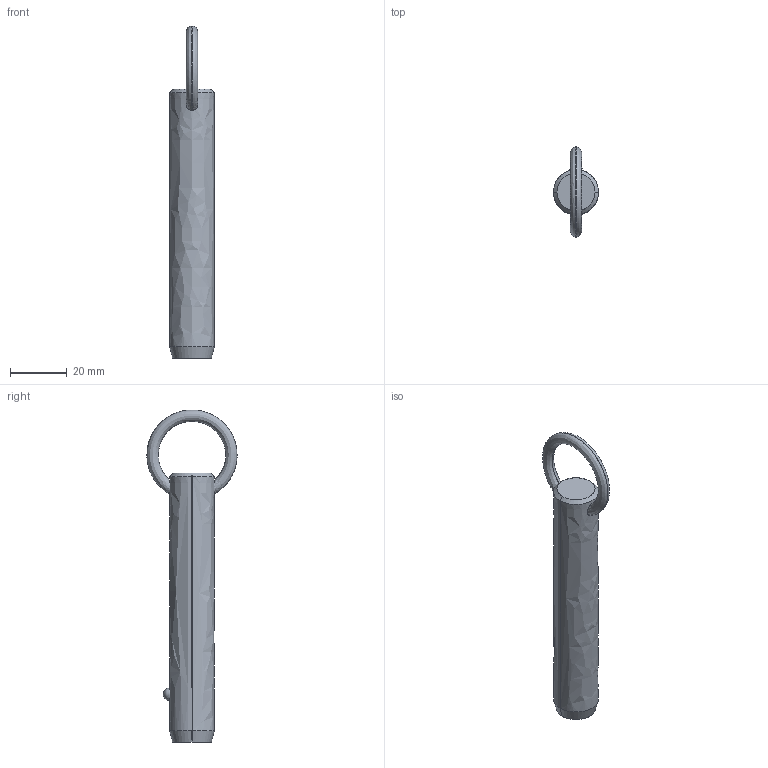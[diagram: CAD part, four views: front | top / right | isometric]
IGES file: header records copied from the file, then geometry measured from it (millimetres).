
Start section: SolidWorks IGES file using analytic representation for surfaces
Global section: file name: C:\Users\liam_\OneDrive\Documents\WORK\Work for WixRoyd\Job Files\J-00019 - Matt Davis CAD Checking\04. CAD Drawings\automotion20190605\P1250.2_v2\P1250.2_v2_20190729_IGES\P1250.062-260.igs; native system: SolidWorks 2017; preprocessor: SolidWorks 2017; author: liam_; date: 190729.233329; units: millimetre
Bounding box: 15.8 x 31.7 x 116.7 mm (x, y, z)
Surface area: 5864.6 mm2 (no closed solid volume)
Topology: 0 solids, 0 shells, 12 faces, 292 edges, 290 vertices
Faces by surface type: revolution 8, bspline 4
